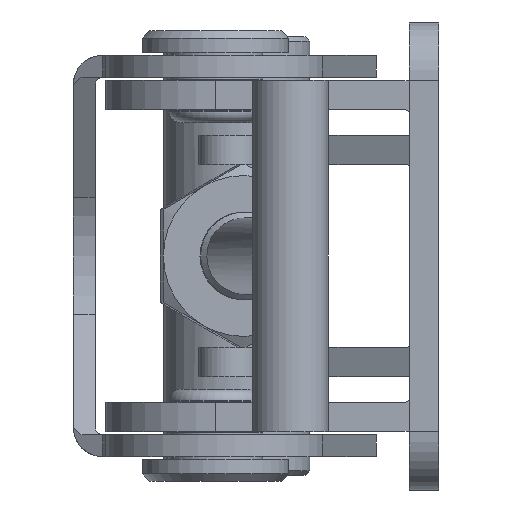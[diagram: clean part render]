
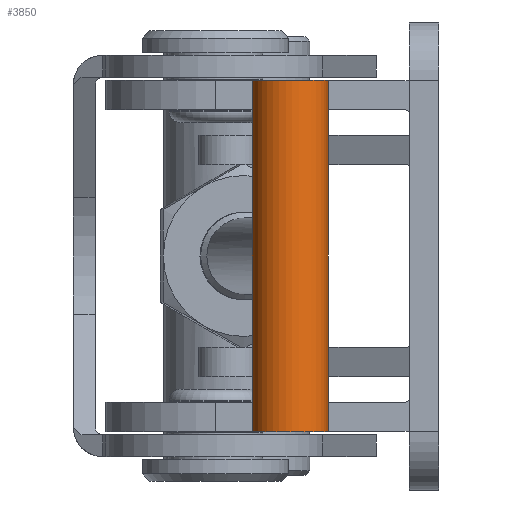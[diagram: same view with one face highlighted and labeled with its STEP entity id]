
A CAD part, left-side view. The second image highlights one B-rep face of the part: STEP entity #3850.
In plain terms, the highlighted cylindrical face has radius 2.6 mm (diameter 5.2 mm), a full revolution.
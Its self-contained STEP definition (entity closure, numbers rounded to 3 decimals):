
#146=CYLINDRICAL_SURFACE('',#4187,2.6);
#265=CIRCLE('',#4188,2.6);
#266=CIRCLE('',#4189,2.6);
#441=ELLIPSE('',#4178,3.677,2.6);
#442=ELLIPSE('',#4179,3.677,2.6);
#677=ORIENTED_EDGE('',*,*,#1663,.F.);
#678=ORIENTED_EDGE('',*,*,#1658,.T.);
#679=ORIENTED_EDGE('',*,*,#1659,.T.);
#680=ORIENTED_EDGE('',*,*,#1664,.T.);
#1658=EDGE_CURVE('',#2173,#2174,#441,.F.);
#1659=EDGE_CURVE('',#2174,#2173,#442,.F.);
#1663=EDGE_CURVE('',#2178,#2178,#265,.T.);
#1664=EDGE_CURVE('',#2179,#2179,#266,.T.);
#2173=VERTEX_POINT('',#5994);
#2174=VERTEX_POINT('',#5995);
#2178=VERTEX_POINT('',#6009);
#2179=VERTEX_POINT('',#6011);
#3107=EDGE_LOOP('',(#677));
#3108=EDGE_LOOP('',(#678,#679));
#3109=EDGE_LOOP('',(#680));
#3432=FACE_BOUND('',#3107,.T.);
#3433=FACE_BOUND('',#3108,.T.);
#3434=FACE_BOUND('',#3109,.T.);
#3850=ADVANCED_FACE('',(#3432,#3433,#3434),#146,.T.);
#4178=AXIS2_PLACEMENT_3D('',#5993,#4792,#4793);
#4179=AXIS2_PLACEMENT_3D('',#5996,#4794,#4795);
#4187=AXIS2_PLACEMENT_3D('',#6007,#4810,#4811);
#4188=AXIS2_PLACEMENT_3D('',#6008,#4812,#4813);
#4189=AXIS2_PLACEMENT_3D('',#6010,#4814,#4815);
#4792=DIRECTION('',(0.707,0.,-0.707));
#4793=DIRECTION('',(0.707,0.,0.707));
#4794=DIRECTION('',(0.707,0.,0.707));
#4795=DIRECTION('',(0.707,0.,-0.707));
#4810=DIRECTION('',(0.,0.,-1.));
#4811=DIRECTION('',(-1.,0.,0.));
#4812=DIRECTION('',(0.,0.,-1.));
#4813=DIRECTION('',(-1.,0.,0.));
#4814=DIRECTION('',(0.,0.,-1.));
#4815=DIRECTION('',(-1.,0.,0.));
#5993=CARTESIAN_POINT('',(-64.605,0.,0.));
#5994=CARTESIAN_POINT('',(-64.605,-2.6,0.));
#5995=CARTESIAN_POINT('',(-64.605,2.6,0.));
#5996=CARTESIAN_POINT('',(-64.605,0.,0.));
#6007=CARTESIAN_POINT('',(-64.605,0.,-12.));
#6008=CARTESIAN_POINT('',(-64.605,0.,-12.));
#6009=CARTESIAN_POINT('',(-67.205,0.,-12.));
#6010=CARTESIAN_POINT('',(-64.605,0.,12.));
#6011=CARTESIAN_POINT('',(-67.205,0.,12.));
